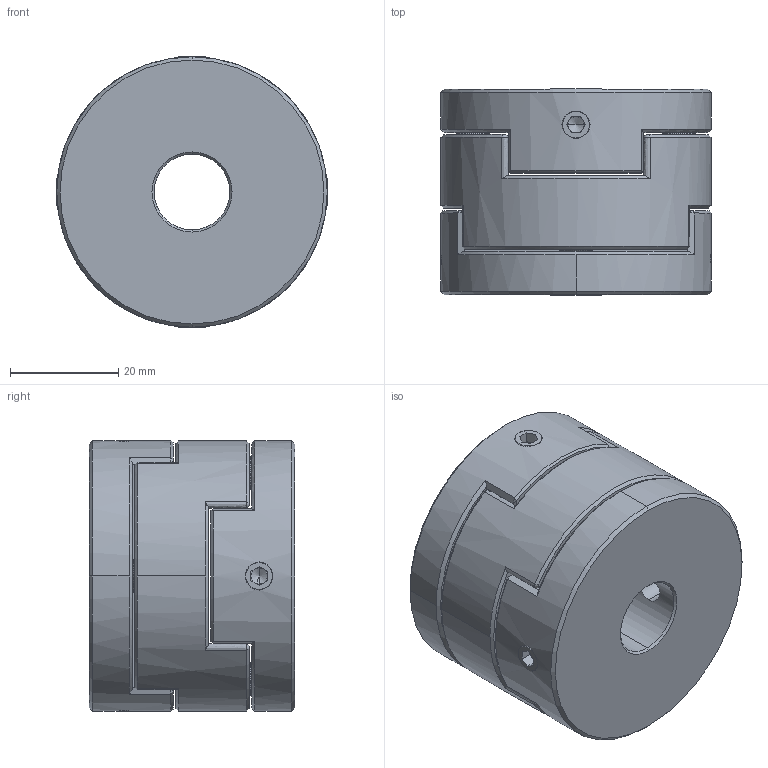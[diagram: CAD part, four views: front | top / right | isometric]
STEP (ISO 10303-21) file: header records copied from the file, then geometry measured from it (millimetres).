
FILE_DESCRIPTION (( 'STEP AP203' ), '1' );
FILE_NAME ('LZ-D-D50L38-14-14.STEP', '2021-10-30T05:45:16', ( '' ), ( '' ), 'SwSTEP 2.0', 'SolidWorks 2018', '' );
FILE_SCHEMA (( 'CONFIG_CONTROL_DESIGN' ));
Length unit declared in the file: millimetre
Products named in the file (1): LZ-D-D50L38-14-14
Bounding box: 50 x 38 x 50 mm (x, y, z)
Volume: 64145.8 mm3; surface area: 18574.9 mm2
Topology: 1 solids, 1 shells, 222 faces, 546 edges, 326 vertices
Faces by surface type: plane 88, bspline 54, cone 54, cylinder 26
Entity records: 7546 total; most frequent: CARTESIAN_POINT 2784, ORIENTED_EDGE 1076, DIRECTION 798, EDGE_CURVE 538, VERTEX_POINT 326, AXIS2_PLACEMENT_3D 289, EDGE_LOOP 248, ADVANCED_FACE 222
